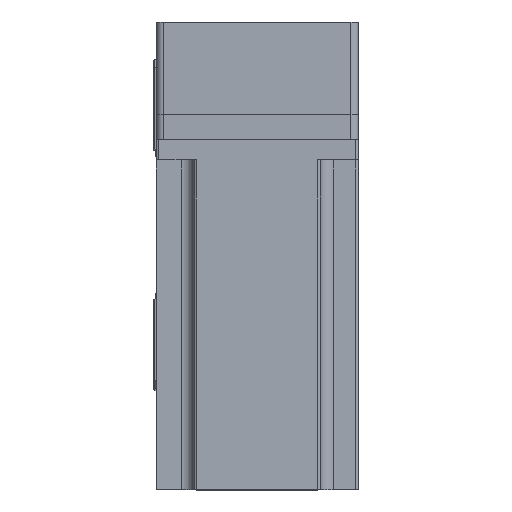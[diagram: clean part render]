
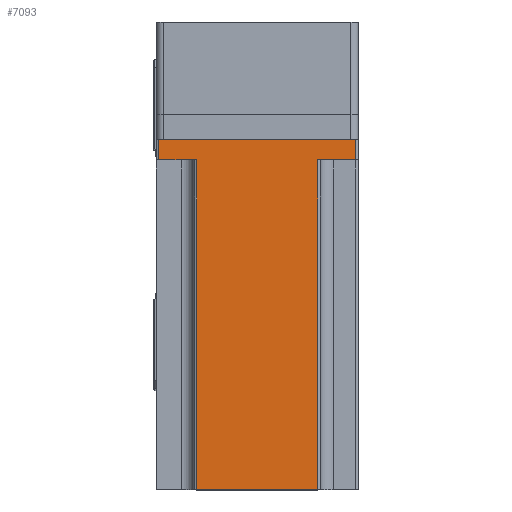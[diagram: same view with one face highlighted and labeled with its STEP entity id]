
A CAD part, top view. The second image highlights one B-rep face of the part: STEP entity #7093.
In plain terms, the highlighted planar face has unit normal (0, 0, 1) as drawn and (0, 1, 0) by its records, which use the part's own axes.
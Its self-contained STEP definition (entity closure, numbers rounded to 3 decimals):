
#291 = CARTESIAN_POINT ( 'NONE',  ( 40., 40., 138.3 ) ) ;
#1604 = VECTOR ( 'NONE', #40052, 1000. ) ;
#1803 = PLANE ( 'NONE',  #38151 ) ;
#2047 = ORIENTED_EDGE ( 'NONE', *, *, #9916, .T. ) ;
#2308 = EDGE_CURVE ( 'NONE', #42830, #36328, #38488, .T. ) ;
#3069 = CARTESIAN_POINT ( 'NONE',  ( -25., 40., 8. ) ) ;
#4459 = EDGE_CURVE ( 'NONE', #6915, #4658, #8696, .T. ) ;
#4658 = VERTEX_POINT ( 'NONE', #26490 ) ;
#4993 = LINE ( 'NONE', #291, #30960 ) ;
#5896 = CARTESIAN_POINT ( 'NONE',  ( -39., 40., 8. ) ) ;
#5964 = CARTESIAN_POINT ( 'NONE',  ( -24., 40., 138.3 ) ) ;
#6112 = ORIENTED_EDGE ( 'NONE', *, *, #26334, .T. ) ;
#6267 = VECTOR ( 'NONE', #14390, 1000. ) ;
#6281 = CARTESIAN_POINT ( 'NONE',  ( -39., 40., 138.3 ) ) ;
#6915 = VERTEX_POINT ( 'NONE', #17934 ) ;
#7093 = ADVANCED_FACE ( 'NONE', ( #41621 ), #1803, .F. ) ;
#7935 = LINE ( 'NONE', #12849, #42767 ) ;
#8215 = LINE ( 'NONE', #6281, #43055 ) ;
#8638 = ORIENTED_EDGE ( 'NONE', *, *, #36037, .F. ) ;
#8696 = LINE ( 'NONE', #42384, #42482 ) ;
#9916 = EDGE_CURVE ( 'NONE', #21980, #21655, #36457, .T. ) ;
#10033 = EDGE_CURVE ( 'NONE', #21980, #4658, #7935, .T. ) ;
#11017 = CARTESIAN_POINT ( 'NONE',  ( 40., 40., 0. ) ) ;
#12144 = DIRECTION ( 'NONE',  ( 0., -1., 0. ) ) ;
#12849 = CARTESIAN_POINT ( 'NONE',  ( 25., 40., 8. ) ) ;
#14390 = DIRECTION ( 'NONE',  ( -1., 0., 0. ) ) ;
#15676 = CARTESIAN_POINT ( 'NONE',  ( 39., 40., 138.3 ) ) ;
#15997 = CARTESIAN_POINT ( 'NONE',  ( -39., 40., 0. ) ) ;
#16722 = CARTESIAN_POINT ( 'NONE',  ( 39., 40., 8. ) ) ;
#17118 = DIRECTION ( 'NONE',  ( -1., 0., 0. ) ) ;
#17934 = CARTESIAN_POINT ( 'NONE',  ( 24., 40., 138.3 ) ) ;
#19585 = LINE ( 'NONE', #3069, #1604 ) ;
#19650 = DIRECTION ( 'NONE',  ( -1., 0., 0. ) ) ;
#21280 = CARTESIAN_POINT ( 'NONE',  ( -24., 40., 8. ) ) ;
#21655 = VERTEX_POINT ( 'NONE', #28414 ) ;
#21852 = VERTEX_POINT ( 'NONE', #15997 ) ;
#21903 = ORIENTED_EDGE ( 'NONE', *, *, #4459, .T. ) ;
#21980 = VERTEX_POINT ( 'NONE', #16722 ) ;
#23270 = VECTOR ( 'NONE', #42651, 1000. ) ;
#23283 = VERTEX_POINT ( 'NONE', #5896 ) ;
#25610 = DIRECTION ( 'NONE',  ( 0., 0., -1. ) ) ;
#26334 = EDGE_CURVE ( 'NONE', #21852, #23283, #8215, .T. ) ;
#26490 = CARTESIAN_POINT ( 'NONE',  ( 24., 40., 8. ) ) ;
#26923 = ORIENTED_EDGE ( 'NONE', *, *, #10033, .F. ) ;
#28414 = CARTESIAN_POINT ( 'NONE',  ( 39., 40., 0. ) ) ;
#29611 = VECTOR ( 'NONE', #35772, 1000. ) ;
#30960 = VECTOR ( 'NONE', #17118, 1000. ) ;
#31159 = EDGE_LOOP ( 'NONE', ( #43021, #35817, #8638, #21903, #26923, #2047, #34827, #6112 ) ) ;
#32360 = CARTESIAN_POINT ( 'NONE',  ( 40., 40., 138.3 ) ) ;
#33195 = LINE ( 'NONE', #11017, #6267 ) ;
#34827 = ORIENTED_EDGE ( 'NONE', *, *, #42243, .T. ) ;
#35732 = DIRECTION ( 'NONE',  ( 1., 0., 0. ) ) ;
#35772 = DIRECTION ( 'NONE',  ( 0., 0., 1. ) ) ;
#35817 = ORIENTED_EDGE ( 'NONE', *, *, #2308, .T. ) ;
#36037 = EDGE_CURVE ( 'NONE', #6915, #36328, #4993, .T. ) ;
#36328 = VERTEX_POINT ( 'NONE', #42421 ) ;
#36457 = LINE ( 'NONE', #15676, #23270 ) ;
#36660 = DIRECTION ( 'NONE',  ( 0., 0., 1. ) ) ;
#37455 = EDGE_CURVE ( 'NONE', #23283, #42830, #19585, .T. ) ;
#38151 = AXIS2_PLACEMENT_3D ( 'NONE', #32360, #12144, #35732 ) ;
#38488 = LINE ( 'NONE', #5964, #29611 ) ;
#40052 = DIRECTION ( 'NONE',  ( 1., 0., 0. ) ) ;
#41621 = FACE_OUTER_BOUND ( 'NONE', #31159, .T. ) ;
#42243 = EDGE_CURVE ( 'NONE', #21655, #21852, #33195, .T. ) ;
#42384 = CARTESIAN_POINT ( 'NONE',  ( 24., 40., 138.3 ) ) ;
#42421 = CARTESIAN_POINT ( 'NONE',  ( -24., 40., 138.3 ) ) ;
#42482 = VECTOR ( 'NONE', #25610, 1000. ) ;
#42651 = DIRECTION ( 'NONE',  ( 0., 0., -1. ) ) ;
#42767 = VECTOR ( 'NONE', #19650, 1000. ) ;
#42830 = VERTEX_POINT ( 'NONE', #21280 ) ;
#43021 = ORIENTED_EDGE ( 'NONE', *, *, #37455, .T. ) ;
#43055 = VECTOR ( 'NONE', #36660, 1000. ) ;
